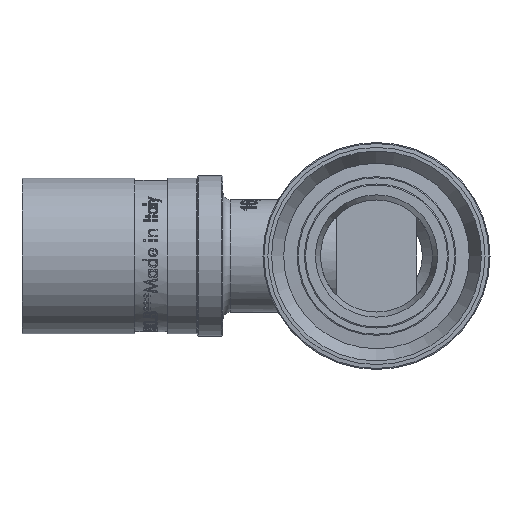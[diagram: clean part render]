
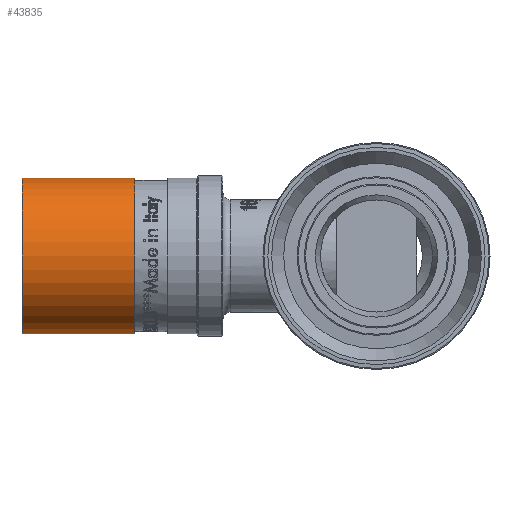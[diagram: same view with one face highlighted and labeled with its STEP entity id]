
A CAD part, left-side view. The second image highlights one B-rep face of the part: STEP entity #43835.
In plain terms, the highlighted cylindrical face has radius 10.7 mm (diameter 21.4 mm), a full revolution.
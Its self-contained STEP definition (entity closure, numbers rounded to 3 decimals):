
#3562=FACE_OUTER_BOUND('',#6188,.T.);
#6188=EDGE_LOOP('',(#35230,#35231,#35232,#35233,#35234,#35235));
#11832=LINE('',#78255,#14856);
#14856=VECTOR('',#51151,10.7);
#16733=CIRCLE('',#46206,10.7);
#16734=CIRCLE('',#46207,10.7);
#16735=CIRCLE('',#46209,10.7);
#16736=CIRCLE('',#46210,10.7);
#19974=VERTEX_POINT('',#78246);
#19975=VERTEX_POINT('',#78247);
#19976=VERTEX_POINT('',#78251);
#19977=VERTEX_POINT('',#78252);
#25533=EDGE_CURVE('',#19974,#19975,#16733,.T.);
#25534=EDGE_CURVE('',#19975,#19974,#16734,.T.);
#25535=EDGE_CURVE('',#19976,#19977,#16735,.T.);
#25536=EDGE_CURVE('',#19977,#19976,#16736,.T.);
#25537=EDGE_CURVE('',#19977,#19975,#11832,.T.);
#35230=ORIENTED_EDGE('',*,*,#25535,.F.);
#35231=ORIENTED_EDGE('',*,*,#25536,.F.);
#35232=ORIENTED_EDGE('',*,*,#25537,.T.);
#35233=ORIENTED_EDGE('',*,*,#25534,.T.);
#35234=ORIENTED_EDGE('',*,*,#25533,.T.);
#35235=ORIENTED_EDGE('',*,*,#25537,.F.);
#42585=CYLINDRICAL_SURFACE('',#46208,10.7);
#43835=ADVANCED_FACE('',(#3562),#42585,.T.);
#46206=AXIS2_PLACEMENT_3D('',#78248,#51141,#51142);
#46207=AXIS2_PLACEMENT_3D('',#78249,#51143,#51144);
#46208=AXIS2_PLACEMENT_3D('',#78250,#51145,#51146);
#46209=AXIS2_PLACEMENT_3D('',#78253,#51147,#51148);
#46210=AXIS2_PLACEMENT_3D('',#78254,#51149,#51150);
#51141=DIRECTION('center_axis',(0.,-1.,0.));
#51142=DIRECTION('ref_axis',(1.,0.,0.));
#51143=DIRECTION('center_axis',(0.,-1.,0.));
#51144=DIRECTION('ref_axis',(1.,0.,0.));
#51145=DIRECTION('center_axis',(0.,-1.,0.));
#51146=DIRECTION('ref_axis',(1.,0.,0.));
#51147=DIRECTION('center_axis',(0.,-1.,0.));
#51148=DIRECTION('ref_axis',(1.,0.,0.));
#51149=DIRECTION('center_axis',(0.,-1.,0.));
#51150=DIRECTION('ref_axis',(1.,0.,0.));
#51151=DIRECTION('',(0.,1.,0.));
#78246=CARTESIAN_POINT('',(10.7,48.712,0.));
#78247=CARTESIAN_POINT('',(-10.7,48.712,0.));
#78248=CARTESIAN_POINT('Origin',(0.,48.712,0.));
#78249=CARTESIAN_POINT('Origin',(0.,48.712,0.));
#78250=CARTESIAN_POINT('Origin',(0.,40.962,0.));
#78251=CARTESIAN_POINT('',(10.7,33.212,0.));
#78252=CARTESIAN_POINT('',(-10.7,33.212,0.));
#78253=CARTESIAN_POINT('Origin',(0.,33.212,0.));
#78254=CARTESIAN_POINT('Origin',(0.,33.212,0.));
#78255=CARTESIAN_POINT('',(-10.7,40.962,0.));
